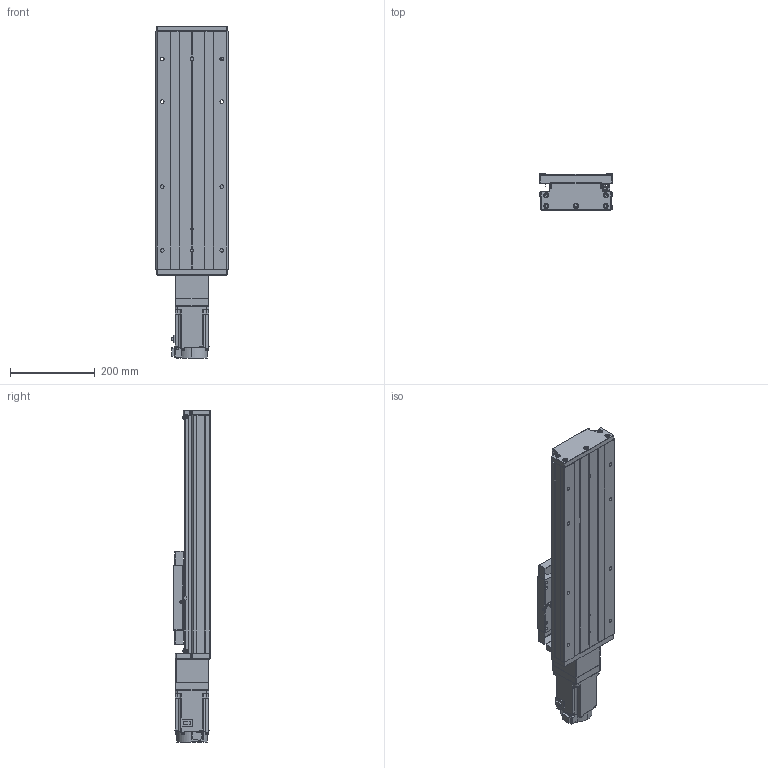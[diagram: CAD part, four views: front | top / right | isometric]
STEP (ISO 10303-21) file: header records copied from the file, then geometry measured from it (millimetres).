
FILE_DESCRIPTION (( 'STEP AP203' ), '1' );
FILE_NAME ('GTH17-300-BC-M75-C4.step', '2023-06-30T11:21:11', ( '微软用户' ), ( '微软中国' ), 'SwSTEP 2.0', 'SolidWorks 2020', '' );
FILE_SCHEMA (( 'CONFIG_CONTROL_DESIGN' ));
Length unit declared in the file: millimetre
Products named in the file (20): GTH17-004; GBT77-2000 M3×3; GTH17-013; GTH17-005; GBT 70.1-M6¡Á20_M6¡Á20; GTH17-027-1; GB1155-6X6; GTH17-031; HG-KN73J-S100; CTHA60-017; GBT 70.2-M3¡Á5_M3¡Á6; GTH17-300-BC-M75-C4; EE_SX911P_R; す晦芛蹟隊 M3℅5; GTH17-001_300; CTHA60-016; GBT 70.3-M3℅8; GTH17-002_GTH17-002; GBT 70.1-M3℅5; GTH17-006-2_M75
Assembly tree (57 placements, depth 2):
  GTH17-300-BC-M75-C4
    GTH17-001_300
    GTH17-002_GTH17-002
    GTH17-004
    GTH17-005
    GB1155-6X6  x2
    CTHA60-017  x3
    EE_SX911P_R  x3
    CTHA60-016  x2
    GBT 70.1-M3℅5  x6
    GBT77-2000 M3×3  x6
    GBT 70.1-M6¡Á20_M6¡Á20  x10
    GTH17-031
    GBT 70.2-M3¡Á5_M3¡Á6  x8
    す晦芛蹟隊 M3℅5  x6
    GBT 70.3-M3℅8  x2
    GTH17-006-2_M75
    GTH17-013
    GTH17-027-1
    HG-KN73J-S100
Bounding box: 171 x 87 x 781.2 mm (x, y, z)
Volume: 5961091.8 mm3; surface area: 835299.4 mm2
Topology: 60 solids, 60 shells, 2394 faces, 5725 edges, 3547 vertices
Faces by surface type: plane 1301, cylinder 646, cone 287, torus 120, sphere 20, bspline 20
Entity records: 44529 total; most frequent: CARTESIAN_POINT 10327, DIRECTION 6417, ORIENTED_EDGE 6366, EDGE_CURVE 3183, AXIS2_PLACEMENT_3D 2171, VECTOR 2075, LINE 2075, VERTEX_POINT 2015
